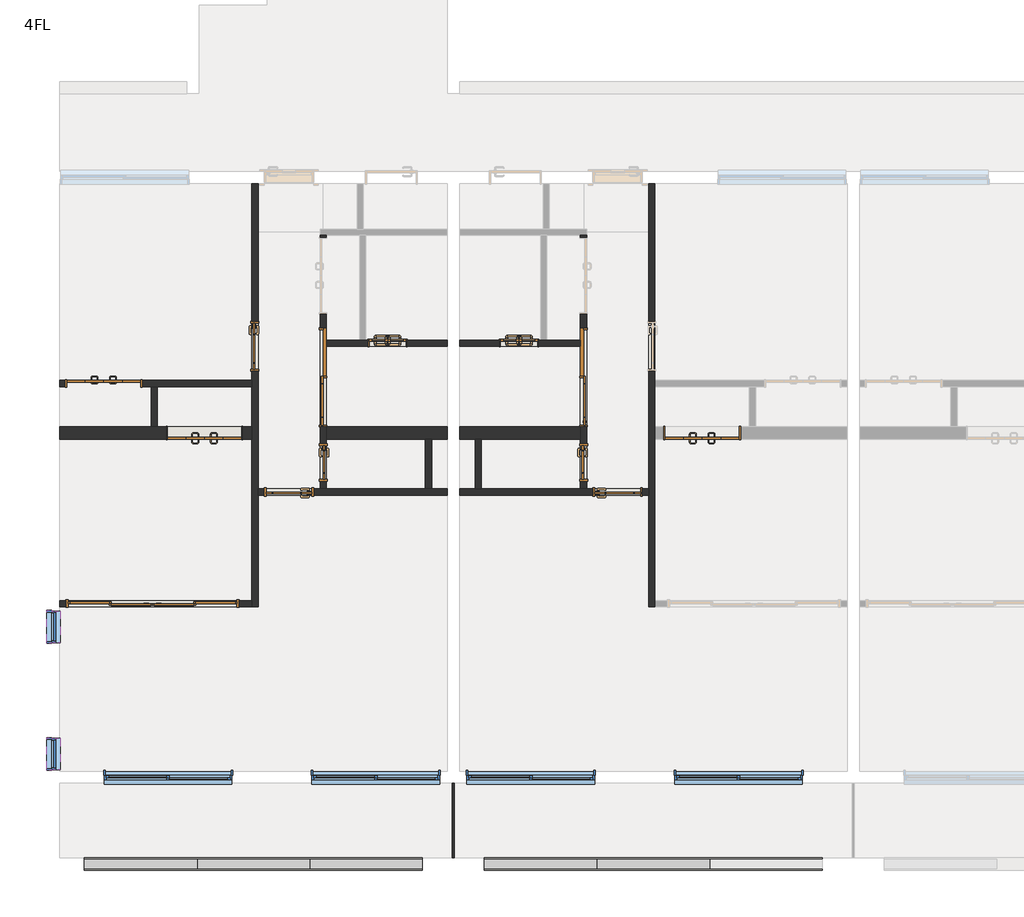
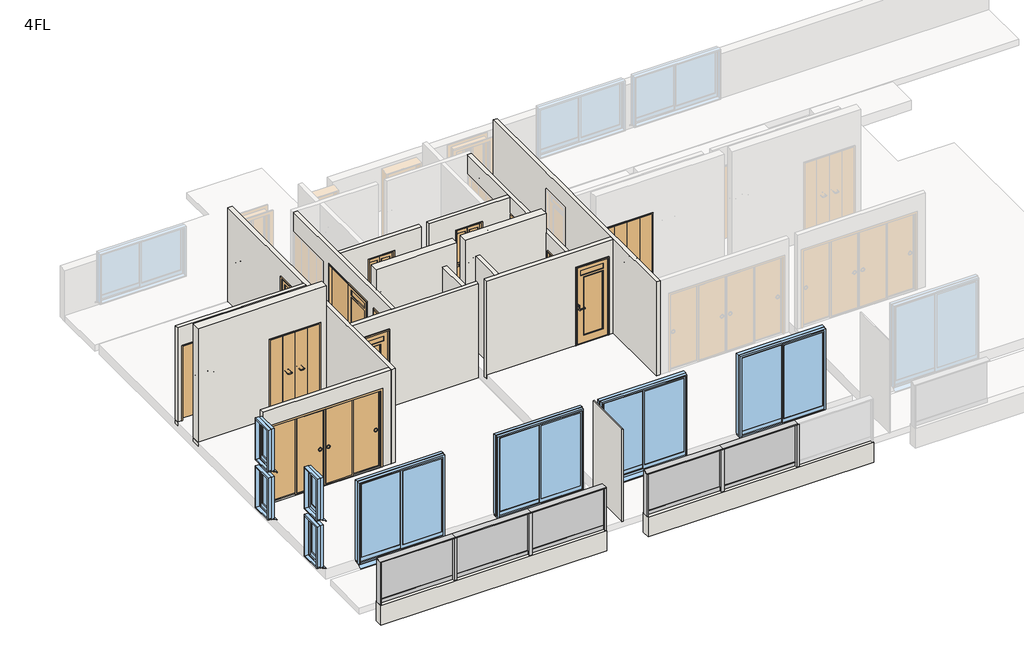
# One storey, part 1 of 3: 19 walls, 13 doors, 12 members, 8 windows, 5 plates.
"""IFC4 building model written with IfcOpenShell, lengths in millimetres."""

from ifc_helpers import new_model, si_unit, frame, origin, place, context, project, spatial, polyline, outline, extrude, faceted_brep, transform, mapped, element, save
from components import door_1200x2000_98cacc9b, door_1200x2000_6a144d60, door_1200x2000_ebe1d490, door_1600x2000_09a7ee27, door_1600x2000_1f5bdc43, door_2800x2000_670b855b, door_600x2000_7f2747f4, door_600x2000_6a266bef, door_600x2000_8ea70a65, door_600x2000_94bb9c3c, door_800x2000_13e9f519, door_800x2000_ccb03061, member_25x150_3f8205e2, member_25x150_e252ec85, member_25x150_8b8be5b9, member_70x150_851c8a9b, plate_5aac5250, plate_977e9fc7, window_2000x2000_f1ff98da, window_450x1000_e0a5e2da, window_450x1000_1cddc73c

model = new_model("IFC4")

# Units and contexts
model_context = context("Model", 3, world=origin())
ifc_project = project(units=[si_unit("LENGTHUNIT", "METRE", prefix="MILLI")], contexts=[model_context])

# Site, building, storey
site = spatial("IfcSite", under=ifc_project)
building = spatial("IfcBuilding", under=site)
storey = spatial("IfcBuildingStorey", under=building, Name="4FL", Elevation=10000.0)

# Doors
placement = place(None, origin())
door_1200x2000_shape = door_1200x2000_98cacc9b(model_context)
element("IfcDoor", 1, ObjectType="木製折戸 : 1200x2000", at=placement, inside=storey, context=model_context, shape_type="MappedRepresentation", body=[
    mapped(door_1200x2000_shape, transform((-8741.2187246, -9820.1171638, 10100.0), x_axis=(-1.0, 0.0, 0.0), y_axis=(0.0, -1.0, 0.0), z_axis=(0.0, 0.0, 1.0))),
])
door_1200x2000_2_shape = door_1200x2000_6a144d60(model_context)
element("IfcDoor", 2, ObjectType="木製折戸 : 1200x2000", at=placement, inside=storey, context=model_context, shape_type="MappedRepresentation", body=[
    mapped(door_1200x2000_2_shape, transform((-10366.2187246, -9020.1171638, 10000.0), x_axis=(1.0, 0.0, 0.0), y_axis=(0.0, 1.0, 0.0), z_axis=(0.0, 0.0, 1.0))),
])
door_1200x2000_3_shape = door_1200x2000_ebe1d490(model_context)
element("IfcDoor", 3, ObjectType="木製折戸 : 1200x2000", at=placement, inside=storey, context=model_context, shape_type="MappedRepresentation", body=[
    mapped(door_1200x2000_3_shape, transform((-716.2187246, -9820.1171638, 10100.0), x_axis=(1.0, 0.0, 0.0), y_axis=(0.0, 1.0, 0.0), z_axis=(0.0, 0.0, 1.0))),
])
door_1600x2000_shape = door_1600x2000_09a7ee27(model_context)
element("IfcDoor", 4, ObjectType="片引戸CL2017 : 1600x2000", at=placement, inside=storey, context=model_context, shape_type="MappedRepresentation", body=[
    mapped(door_1600x2000_shape, transform((-6828.7187246, -8920.1171638, 10100.0), x_axis=(0.0, -1.0, 0.0), y_axis=(1.0, 0.0, 0.0), z_axis=(0.0, 0.0, 1.0))),
])
door_1600x2000_2_shape = door_1600x2000_1f5bdc43(model_context)
element("IfcDoor", 5, ObjectType="片引戸CL2017 : 1600x2000", at=placement, inside=storey, context=model_context, shape_type="MappedRepresentation", body=[
    mapped(door_1600x2000_2_shape, transform((-2628.7187246, -8920.1171638, 10100.0), x_axis=(0.0, -1.0, 0.0), y_axis=(1.0, 0.0, 0.0), z_axis=(0.0, 0.0, 1.0))),
])
door_2800x2000_shape = door_2800x2000_670b855b(model_context)
element("IfcDoor", 6, ObjectType="引違い 4 枚 2 溝_襖 : 2800x2000", at=placement, inside=storey, context=model_context, shape_type="MappedRepresentation", body=[
    mapped(door_2800x2000_shape, transform((-9573.1832207, -12570.1171638, 10100.0), x_axis=(1.0, 0.0, 0.0), y_axis=(0.0, 1.0, 0.0), z_axis=(0.0, 0.0, 1.0))),
])
door_600x2000_shape = door_600x2000_7f2747f4(model_context)
element("IfcDoor", 7, ObjectType="片開き戸CL2058 : 600x2000", at=placement, inside=storey, context=model_context, shape_type="MappedRepresentation", body=[
    mapped(door_600x2000_shape, transform((-6828.7187246, -10295.1171638, 10100.0), x_axis=(0.0, -1.0, 0.0), y_axis=(1.0, 0.0, 0.0), z_axis=(0.0, 0.0, 1.0))),
])
door_600x2000_2_shape = door_600x2000_6a266bef(model_context)
element("IfcDoor", 8, ObjectType="浴室折戸 : 600x2000", at=placement, inside=storey, context=model_context, shape_type="MappedRepresentation", body=[
    mapped(door_600x2000_2_shape, transform((-5788.7187246, -8370.1171638, 10100.0), x_axis=(1.0, 0.0, 0.0), y_axis=(0.0, 1.0, 0.0), z_axis=(0.0, 0.0, 1.0))),
])
door_600x2000_3_shape = door_600x2000_8ea70a65(model_context)
element("IfcDoor", 9, ObjectType="片開き戸CL2058 : 600x2000", at=placement, inside=storey, context=model_context, shape_type="MappedRepresentation", body=[
    mapped(door_600x2000_3_shape, transform((-2628.7187246, -10295.1171638, 10100.0), x_axis=(0.0, -1.0, 0.0), y_axis=(1.0, 0.0, 0.0), z_axis=(0.0, 0.0, 1.0))),
])
door_600x2000_4_shape = door_600x2000_94bb9c3c(model_context)
element("IfcDoor", 10, ObjectType="浴室折戸 : 600x2000", at=placement, inside=storey, context=model_context, shape_type="MappedRepresentation", body=[
    mapped(door_600x2000_4_shape, transform((-3668.7187246, -8370.1171638, 10100.0), x_axis=(-1.0, 0.0, 0.0), y_axis=(0.0, -1.0, 0.0), z_axis=(0.0, 0.0, 1.0))),
])
door_800x2000_shape = door_800x2000_13e9f519(model_context)
element("IfcDoor", 11, ObjectType="片開き戸CL2058 : 800x2000", at=placement, inside=storey, context=model_context, shape_type="MappedRepresentation", body=[
    mapped(door_800x2000_shape, transform((-7928.7187246, -8420.1171638, 10100.0), x_axis=(0.0, -1.0, 0.0), y_axis=(1.0, 0.0, 0.0), z_axis=(0.0, 0.0, 1.0))),
])
element("IfcDoor", 12, ObjectType="片開き戸CL2058 : 800x2000", at=placement, inside=storey, context=model_context, shape_type="MappedRepresentation", body=[
    mapped(door_800x2000_shape, transform((-2078.7187246, -10770.1171638, 10100.0), x_axis=(1.0, 0.0, 0.0), y_axis=(0.0, 1.0, 0.0), z_axis=(0.0, 0.0, 1.0))),
])
door_800x2000_2_shape = door_800x2000_ccb03061(model_context)
element("IfcDoor", 13, ObjectType="片開き戸CL2058 : 800x2000", at=placement, inside=storey, context=model_context, shape_type="MappedRepresentation", body=[
    mapped(door_800x2000_2_shape, transform((-7378.7187246, -10770.1171638, 10100.0), x_axis=(-1.0, 0.0, 0.0), y_axis=(0.0, -1.0, 0.0), z_axis=(0.0, 0.0, 1.0))),
])

# Members
member_25x150_shape = member_25x150_3f8205e2(model_context)
element("IfcMember", 14, ObjectType="長方形のマリオン : 25x150", at=placement, inside=storey, context=model_context, shape_type="MappedRepresentation", body=[
    mapped(member_25x150_shape, transform((-5228.7187246, -16770.1171638, 10000.0), x_axis=(1.0, 0.0, 0.0), y_axis=(0.0, -1.0, 0.0), z_axis=(0.0, 0.0, -1.0))),
])
element("IfcMember", 15, ObjectType="長方形のマリオン : 25x150", at=placement, inside=storey, context=model_context, shape_type="MappedRepresentation", body=[
    mapped(member_25x150_shape, transform((-10678.7187246, -16770.1171638, 11075.0), x_axis=(-1.0, 0.0, 0.0), y_axis=(0.0, -1.0, 0.0), z_axis=(0.0, 0.0, 1.0))),
])
element("IfcMember", 16, ObjectType="長方形のマリオン : 25x150", at=placement, inside=storey, context=model_context, shape_type="MappedRepresentation", body=[
    mapped(member_25x150_shape, transform((-4228.7187246, -16770.1171638, 11075.0), x_axis=(-1.0, 0.0, 0.0), y_axis=(0.0, -1.0, 0.0), z_axis=(0.0, 0.0, 1.0))),
])
member_25x150_2_shape = member_25x150_e252ec85(model_context)
element("IfcMember", 17, ObjectType="長方形のマリオン : 25x150", at=placement, inside=storey, context=model_context, shape_type="MappedRepresentation", body=[
    mapped(member_25x150_2_shape, transform((-5228.7187246, -16770.1171638, 11100.0), x_axis=(0.0, 0.0, 1.0), y_axis=(0.0, -1.0, 0.0), z_axis=(1.0, 0.0, 0.0))),
])
element("IfcMember", 18, ObjectType="長方形のマリオン : 25x150", at=placement, inside=storey, context=model_context, shape_type="MappedRepresentation", body=[
    mapped(member_25x150_2_shape, transform((-8862.0520579, -16770.1171638, 11100.0), x_axis=(0.0, 0.0, 1.0), y_axis=(0.0, -1.0, 0.0), z_axis=(1.0, 0.0, 0.0))),
])
element("IfcMember", 19, ObjectType="長方形のマリオン : 25x150", at=placement, inside=storey, context=model_context, shape_type="MappedRepresentation", body=[
    mapped(member_25x150_2_shape, transform((-2412.0520579, -16770.1171638, 11100.0), x_axis=(0.0, 0.0, 1.0), y_axis=(0.0, -1.0, 0.0), z_axis=(1.0, 0.0, 0.0))),
])
member_25x150_3_shape = member_25x150_8b8be5b9(model_context)
element("IfcMember", 20, ObjectType="長方形のマリオン : 25x150", at=placement, inside=storey, context=model_context, shape_type="MappedRepresentation", body=[
    mapped(member_25x150_3_shape, transform((-7045.3853914, -16770.1171638, 11100.0), x_axis=(0.0, 0.0, 1.0), y_axis=(0.0, -1.0, 0.0), z_axis=(1.0, 0.0, 0.0))),
])
element("IfcMember", 21, ObjectType="長方形のマリオン : 25x150", at=placement, inside=storey, context=model_context, shape_type="MappedRepresentation", body=[
    mapped(member_25x150_3_shape, transform((-595.3853914, -16770.1171638, 11100.0), x_axis=(0.0, 0.0, 1.0), y_axis=(0.0, -1.0, 0.0), z_axis=(1.0, 0.0, 0.0))),
])
member_70x150_shape = member_70x150_851c8a9b(model_context)
element("IfcMember", 22, ObjectType="長方形のマリオン : 70x150", at=placement, inside=storey, context=model_context, shape_type="MappedRepresentation", body=[
    mapped(member_70x150_shape, transform((-8862.0520579, -16770.1171638, 10000.0), x_axis=(1.0, 0.0, 0.0), y_axis=(0.0, -1.0, 0.0), z_axis=(0.0, 0.0, -1.0))),
])
element("IfcMember", 23, ObjectType="長方形のマリオン : 70x150", at=placement, inside=storey, context=model_context, shape_type="MappedRepresentation", body=[
    mapped(member_70x150_shape, transform((-7045.3853914, -16770.1171638, 10000.0), x_axis=(1.0, 0.0, 0.0), y_axis=(0.0, -1.0, 0.0), z_axis=(0.0, 0.0, -1.0))),
])
element("IfcMember", 24, ObjectType="長方形のマリオン : 70x150", at=placement, inside=storey, context=model_context, shape_type="MappedRepresentation", body=[
    mapped(member_70x150_shape, transform((-2412.0520579, -16770.1171638, 10000.0), x_axis=(1.0, 0.0, 0.0), y_axis=(0.0, -1.0, 0.0), z_axis=(0.0, 0.0, -1.0))),
])
element("IfcMember", 25, ObjectType="長方形のマリオン : 70x150", at=placement, inside=storey, context=model_context, shape_type="MappedRepresentation", body=[
    mapped(member_70x150_shape, transform((-595.3853914, -16770.1171638, 10000.0), x_axis=(1.0, 0.0, 0.0), y_axis=(0.0, -1.0, 0.0), z_axis=(0.0, 0.0, -1.0))),
])

# Plates
plate_shape = plate_5aac5250(model_context)
element("IfcPlate", 26, ObjectType="r パネル FIX 下框付 : 框 H100", at=placement, inside=storey, context=model_context, shape_type="MappedRepresentation", body=[
    mapped(plate_shape, transform((-9775.3853913, -16770.1171638, 10000.0), x_axis=(1.0, 0.0, 0.0), y_axis=(0.0, 1.0, 0.0), z_axis=(0.0, 0.0, 1.0))),
])
element("IfcPlate", 27, ObjectType="r パネル FIX 下框付 : 框 H100", at=placement, inside=storey, context=model_context, shape_type="MappedRepresentation", body=[
    mapped(plate_shape, transform((-6132.052058, -16770.1171638, 10000.0), x_axis=(1.0, 0.0, 0.0), y_axis=(0.0, 1.0, 0.0), z_axis=(0.0, 0.0, 1.0))),
])
element("IfcPlate", 28, ObjectType="r パネル FIX 下框付 : 框 H100", at=placement, inside=storey, context=model_context, shape_type="MappedRepresentation", body=[
    mapped(plate_shape, transform((-3325.3853913, -16770.1171638, 10000.0), x_axis=(1.0, 0.0, 0.0), y_axis=(0.0, 1.0, 0.0), z_axis=(0.0, 0.0, 1.0))),
])
plate_2_shape = plate_977e9fc7(model_context)
element("IfcPlate", 29, ObjectType="r パネル FIX 下框付 : 框 H100", at=placement, inside=storey, context=model_context, shape_type="MappedRepresentation", body=[
    mapped(plate_2_shape, transform((-7953.7187246, -16770.1171638, 10000.0), x_axis=(1.0, 0.0, 0.0), y_axis=(0.0, 1.0, 0.0), z_axis=(0.0, 0.0, 1.0))),
])
element("IfcPlate", 30, ObjectType="r パネル FIX 下框付 : 框 H100", at=placement, inside=storey, context=model_context, shape_type="MappedRepresentation", body=[
    mapped(plate_2_shape, transform((-1503.7187246, -16770.1171638, 10000.0), x_axis=(1.0, 0.0, 0.0), y_axis=(0.0, 1.0, 0.0), z_axis=(0.0, 0.0, 1.0))),
])

# Walls
element("IfcWall", 31, ObjectType="(R)RC200", at=placement, inside=storey, context=model_context, shape_type="Brep", body=[
    faceted_brep([(-11078.7187246, -9920.1171638, 10000.0), (-7978.7187246, -9920.1171638, 10000.0), (-7978.7187246, -9920.1171638, 13000.0), (-11078.7187246, -9920.1171638, 13000.0), (-9361.2187246, -9920.1171638, 12120.0), (-8121.2187246, -9920.1171638, 12120.0), (-8121.2187246, -9920.1171638, 10100.0), (-9361.2187246, -9920.1171638, 10100.0), (-11078.7187246, -9720.1171638, 10000.0), (-11078.7187246, -9720.1171638, 13000.0), (-7978.7187246, -9720.1171638, 13000.0), (-7978.7187246, -9720.1171638, 10000.0), (-9503.7187246, -9720.1171638, 10000.0), (-9603.7187246, -9720.1171638, 10000.0), (-9361.2187246, -9720.1171638, 12120.0), (-9361.2187246, -9720.1171638, 10100.0), (-8121.2187246, -9720.1171638, 10100.0), (-8121.2187246, -9720.1171638, 12120.0)], [[[0, 1, 2, 3], [4, 5, 6, 7]], [[8, 9, 10, 11, 12, 13], [14, 15, 16, 17]], [[1, 0, 8, 13, 12, 11]], [[3, 2, 10, 9]], [[2, 1, 11, 10]], [[15, 14, 4, 7]], [[16, 15, 7, 6]], [[17, 16, 6, 5]], [[14, 17, 5, 4]], [[0, 3, 9, 8]]]),
])
element("IfcWall", 32, ObjectType="(R)RC200", at=placement, inside=storey, context=model_context, shape_type="Brep", body=[
    faceted_brep([(-6778.7187246, -9920.1171638, 10000.0), (-5178.7187246, -9920.1171638, 10000.0), (-5078.7187246, -9920.1171638, 10000.0), (-4828.7187246, -9920.1171638, 10000.0), (-4828.7187246, -9920.1171638, 13000.0), (-6778.7187246, -9920.1171638, 13000.0), (-6778.7187246, -9720.1171638, 10000.0), (-6778.7187246, -9720.1171638, 10100.0), (-6778.7187246, -9720.1171638, 12100.0), (-6778.7187246, -9720.1171638, 13000.0), (-4828.7187246, -9720.1171638, 13000.0), (-4828.7187246, -9720.1171638, 10000.0)], [[[0, 1, 2, 3, 4, 5]], [[6, 7, 8, 9, 10, 11]], [[3, 2, 1, 0, 6, 11]], [[5, 4, 10, 9]], [[0, 5, 9, 8, 7, 6]], [[4, 3, 11, 10]]]),
])
element("IfcWall", 33, ObjectType="(R)RC200", at=placement, inside=storey, context=model_context, shape_type="Brep", body=[
    faceted_brep([(-2678.7187246, -9720.1171638, 10000.0), (-4628.7187246, -9720.1171638, 10000.0), (-4628.7187246, -9720.1171638, 13000.0), (-2678.7187246, -9720.1171638, 13000.0), (-2678.7187246, -9720.1171638, 12100.0), (-2678.7187246, -9720.1171638, 10100.0), (-2678.7187246, -9920.1171638, 10000.0), (-2678.7187246, -9920.1171638, 13000.0), (-4628.7187246, -9920.1171638, 13000.0), (-4628.7187246, -9920.1171638, 10000.0), (-4378.7187246, -9920.1171638, 10000.0), (-4278.7187246, -9920.1171638, 10000.0)], [[[0, 1, 2, 3, 4, 5]], [[6, 7, 8, 9, 10, 11]], [[1, 0, 6, 11, 10, 9]], [[3, 2, 8, 7]], [[0, 5, 4, 3, 7, 6]], [[2, 1, 9, 8]]]),
])
element("IfcWall", 34, ObjectType="(R)RC200", at=placement, inside=storey, context=model_context, shape_type="SweptSolid", body=[
    extrude(outline(polyline([(-5228.7187246, -16870.1171638), (-10678.7187246, -16870.1171638), (-10678.7187246, -16670.1171638), (-5228.7187246, -16670.1171638), (-5228.7187246, -16870.1171638)])), frame((0.0, 0.0, 9500.0), z_axis=(0.0, 0.0, 1.0), x_axis=(1.0, 0.0, 0.0)), (0.0, 0.0, 1.0), 500.0),
])
element("IfcWall", 35, ObjectType="(R)RC200", at=placement, inside=storey, context=model_context, shape_type="SweptSolid", body=[
    extrude(outline(polyline([(1221.2812754, -16870.1171638), (-4228.7187246, -16870.1171638), (-4228.7187246, -16670.1171638), (1221.2812754, -16670.1171638), (1221.2812754, -16870.1171638)])), frame((0.0, 0.0, 9500.0), z_axis=(0.0, 0.0, 1.0), x_axis=(1.0, 0.0, 0.0)), (0.0, 0.0, 1.0), 500.0),
])
element("IfcWall", 36, ObjectType="(F)30", at=placement, inside=storey, context=model_context, shape_type="SweptSolid", body=[
    extrude(outline(polyline([(-4743.7187246, -16670.1171638), (-4743.7187246, -15470.1171638), (-4713.7187246, -15470.1171638), (-4713.7187246, -16670.1171638), (-4743.7187246, -16670.1171638)])), frame((0.0, 0.0, 9950.0), z_axis=(0.0, 0.0, 1.0), x_axis=(1.0, 0.0, 0.0)), (0.0, 0.0, 1.0), 2350.0),
])
element("IfcWall", 37, ObjectType="(L1)LGS100", at=placement, inside=storey, context=model_context, shape_type="Brep", body=[
    faceted_brep([(-7878.7187246, -12620.1171638, 10000.0), (-7878.7187246, -10820.1171638, 10000.0), (-7878.7187246, -10720.1171638, 10000.0), (-7878.7187246, -5800.1171638, 10000.0), (-7878.7187246, -5800.1171638, 12500.0), (-7878.7187246, -10720.1171638, 12500.0), (-7878.7187246, -10820.1171638, 12500.0), (-7878.7187246, -12620.1171638, 12500.0), (-7878.7187246, -8820.1171638, 10100.0), (-7878.7187246, -8820.1171638, 12100.0), (-7878.7187246, -8020.1171638, 12100.0), (-7878.7187246, -8020.1171638, 10100.0), (-7978.7187246, -12620.1171638, 10000.0), (-7978.7187246, -12620.1171638, 12500.0), (-7978.7187246, -12520.1171638, 12500.0), (-7978.7187246, -9070.1171638, 12500.0), (-7978.7187246, -8970.1171638, 12500.0), (-7978.7187246, -5800.1171638, 12500.0), (-7978.7187246, -5800.1171638, 10000.0), (-7978.7187246, -8970.1171638, 10000.0), (-7978.7187246, -9070.1171638, 10000.0), (-7978.7187246, -9720.1171638, 10000.0), (-7978.7187246, -9920.1171638, 10000.0), (-7978.7187246, -12520.1171638, 10000.0), (-7978.7187246, -8820.1171638, 10100.0), (-7978.7187246, -8020.1171638, 10100.0), (-7978.7187246, -8020.1171638, 12100.0), (-7978.7187246, -8820.1171638, 12100.0)], [[[0, 1, 2, 3, 4, 5, 6, 7], [8, 9, 10, 11]], [[12, 13, 14, 15, 16, 17, 18, 19, 20, 21, 22, 23], [24, 25, 26, 27]], [[3, 2, 1, 0, 12, 23, 22, 21, 20, 19, 18]], [[7, 6, 5, 4, 17, 16, 15, 14, 13]], [[0, 7, 13, 12]], [[9, 8, 24, 27]], [[10, 9, 27, 26]], [[11, 10, 26, 25]], [[8, 11, 25, 24]], [[4, 3, 18, 17]]]),
])
element("IfcWall", 38, ObjectType="(L1)LGS100", at=placement, inside=storey, context=model_context, shape_type="Brep", body=[
    faceted_brep([(-6778.7187246, -6630.1171638, 12500.0), (-6778.7187246, -8320.1171638, 12500.0), (-6778.7187246, -8420.1171638, 12500.0), (-6778.7187246, -10720.1171638, 12500.0), (-6778.7187246, -10720.1171638, 10000.0), (-6778.7187246, -9920.1171638, 10000.0), (-6778.7187246, -9720.1171638, 10000.0), (-6778.7187246, -8420.1171638, 10000.0), (-6778.7187246, -8320.1171638, 10000.0), (-6778.7187246, -7900.1171638, 10000.0), (-6778.7187246, -7900.1171638, 12020.0), (-6778.7187246, -6660.1171638, 12020.0), (-6778.7187246, -6660.1171638, 10000.0), (-6778.7187246, -6630.1171638, 10000.0), (-6778.7187246, -10595.1171638, 10100.0), (-6778.7187246, -10595.1171638, 12100.0), (-6778.7187246, -9995.1171638, 12100.0), (-6778.7187246, -9995.1171638, 10100.0), (-6778.7187246, -9720.1171638, 10100.0), (-6778.7187246, -9720.1171638, 12100.0), (-6778.7187246, -8120.1171638, 12100.0), (-6778.7187246, -8120.1171638, 10100.0), (-6878.7187246, -10720.1171638, 12500.0), (-6878.7187246, -6630.1171638, 12500.0), (-6878.7187246, -6630.1171638, 10000.0), (-6878.7187246, -6660.1171638, 10000.0), (-6878.7187246, -6660.1171638, 12020.0), (-6878.7187246, -7900.1171638, 12020.0), (-6878.7187246, -7900.1171638, 10000.0), (-6878.7187246, -10720.1171638, 10000.0), (-6878.7187246, -10595.1171638, 10100.0), (-6878.7187246, -9995.1171638, 10100.0), (-6878.7187246, -9995.1171638, 12100.0), (-6878.7187246, -10595.1171638, 12100.0), (-6878.7187246, -9720.1171638, 12100.0), (-6878.7187246, -9720.1171638, 10100.0), (-6878.7187246, -8120.1171638, 10100.0), (-6878.7187246, -8120.1171638, 12100.0)], [[[0, 1, 2, 3, 4, 5, 6, 7, 8, 9, 10, 11, 12, 13], [14, 15, 16, 17], [18, 19, 20, 21]], [[22, 23, 24, 25, 26, 27, 28, 29], [30, 31, 32, 33], [34, 35, 36, 37]], [[4, 29, 28, 9, 8, 7, 6, 5]], [[24, 13, 12, 25]], [[3, 2, 1, 0, 23, 22]], [[4, 3, 22, 29]], [[0, 13, 24, 23]], [[15, 14, 30, 33]], [[16, 15, 33, 32]], [[17, 16, 32, 31]], [[14, 17, 31, 30]], [[18, 35, 34, 19]], [[19, 34, 37, 20]], [[20, 37, 36, 21]], [[35, 18, 21, 36]], [[12, 11, 26, 25]], [[10, 9, 28, 27]], [[11, 10, 27, 26]]]),
])
element("IfcWall", 39, ObjectType="(L1)LGS100", at=placement, inside=storey, context=model_context, shape_type="Brep", body=[
    faceted_brep([(-6778.7187246, -8420.1171638, 10000.0), (-4828.7187246, -8420.1171638, 10000.0), (-4828.7187246, -8420.1171638, 12500.0), (-6778.7187246, -8420.1171638, 12500.0), (-5468.7187246, -8420.1171638, 12120.0), (-5468.7187246, -8420.1171638, 10100.0), (-6108.7187246, -8420.1171638, 10100.0), (-6108.7187246, -8420.1171638, 12120.0), (-6778.7187246, -8320.1171638, 10000.0), (-6778.7187246, -8320.1171638, 12500.0), (-6238.7187246, -8320.1171638, 12500.0), (-6138.7187246, -8320.1171638, 12500.0), (-4828.7187246, -8320.1171638, 12500.0), (-4828.7187246, -8320.1171638, 10000.0), (-6138.7187246, -8320.1171638, 10000.0), (-6238.7187246, -8320.1171638, 10000.0), (-5468.7187246, -8320.1171638, 12120.0), (-6108.7187246, -8320.1171638, 12120.0), (-6108.7187246, -8320.1171638, 10100.0), (-5468.7187246, -8320.1171638, 10100.0)], [[[0, 1, 2, 3], [4, 5, 6, 7]], [[8, 9, 10, 11, 12, 13, 14, 15], [16, 17, 18, 19]], [[1, 0, 8, 15, 14, 13]], [[3, 2, 12, 11, 10, 9]], [[0, 3, 9, 8]], [[5, 4, 16, 19]], [[6, 5, 19, 18]], [[7, 6, 18, 17]], [[4, 7, 17, 16]], [[2, 1, 13, 12]]]),
])
element("IfcWall", 40, ObjectType="(L1)LGS100", at=placement, inside=storey, context=model_context, shape_type="Brep", body=[
    faceted_brep([(-7878.7187246, -10820.1171638, 10000.0), (-4828.7187246, -10820.1171638, 10000.0), (-4828.7187246, -10820.1171638, 12500.0), (-7878.7187246, -10820.1171638, 12500.0), (-7778.7187246, -10820.1171638, 10100.0), (-7778.7187246, -10820.1171638, 12100.0), (-6978.7187246, -10820.1171638, 12100.0), (-6978.7187246, -10820.1171638, 10100.0), (-7878.7187246, -10720.1171638, 10000.0), (-7878.7187246, -10720.1171638, 12500.0), (-6878.7187246, -10720.1171638, 12500.0), (-6778.7187246, -10720.1171638, 12500.0), (-5178.7187246, -10720.1171638, 12500.0), (-5078.7187246, -10720.1171638, 12500.0), (-4828.7187246, -10720.1171638, 12500.0), (-4828.7187246, -10720.1171638, 10000.0), (-5078.7187246, -10720.1171638, 10000.0), (-5178.7187246, -10720.1171638, 10000.0), (-6778.7187246, -10720.1171638, 10000.0), (-6878.7187246, -10720.1171638, 10000.0), (-7778.7187246, -10720.1171638, 10100.0), (-6978.7187246, -10720.1171638, 10100.0), (-6978.7187246, -10720.1171638, 12100.0), (-7778.7187246, -10720.1171638, 12100.0)], [[[0, 1, 2, 3], [4, 5, 6, 7]], [[8, 9, 10, 11, 12, 13, 14, 15, 16, 17, 18, 19], [20, 21, 22, 23]], [[1, 0, 8, 19, 18, 17, 16, 15]], [[3, 2, 14, 13, 12, 11, 10, 9]], [[0, 3, 9, 8]], [[5, 4, 20, 23]], [[6, 5, 23, 22]], [[7, 6, 22, 21]], [[4, 7, 21, 20]], [[2, 1, 15, 14]]]),
])
element("IfcWall", 41, ObjectType="(L1)LGS100", at=placement, inside=storey, context=model_context, shape_type="SweptSolid", body=[
    extrude(outline(polyline([(-5078.7187246, -9920.1171638), (-5078.7187246, -10720.1171638), (-5178.7187246, -10720.1171638), (-5178.7187246, -9920.1171638), (-5078.7187246, -9920.1171638)])), frame((0.0, 0.0, 10000.0), z_axis=(0.0, 0.0, 1.0), x_axis=(1.0, 0.0, 0.0)), (0.0, 0.0, 1.0), 2500.0),
])
element("IfcWall", 42, ObjectType="(L1)LGS100", at=placement, inside=storey, context=model_context, shape_type="Brep", body=[
    faceted_brep([(-11078.7187246, -9070.1171638, 10000.0), (-10986.2187246, -9070.1171638, 10000.0), (-10986.2187246, -9070.1171638, 12020.0), (-9746.2187246, -9070.1171638, 12020.0), (-9746.2187246, -9070.1171638, 10000.0), (-9603.7187246, -9070.1171638, 10000.0), (-9503.7187246, -9070.1171638, 10000.0), (-7978.7187246, -9070.1171638, 10000.0), (-7978.7187246, -9070.1171638, 12500.0), (-9503.7187246, -9070.1171638, 12500.0), (-9603.7187246, -9070.1171638, 12500.0), (-11078.7187246, -9070.1171638, 12500.0), (-10986.2187246, -8970.1171638, 12020.0), (-10986.2187246, -8970.1171638, 10000.0), (-11078.7187246, -8970.1171638, 10000.0), (-11078.7187246, -8970.1171638, 12500.0), (-7978.7187246, -8970.1171638, 12500.0), (-7978.7187246, -8970.1171638, 10000.0), (-9746.2187246, -8970.1171638, 10000.0), (-9746.2187246, -8970.1171638, 12020.0)], [[[0, 1, 2, 3, 4, 5, 6, 7, 8, 9, 10, 11]], [[12, 13, 14, 15, 16, 17, 18, 19]], [[18, 17, 7, 6, 5, 4]], [[14, 13, 1, 0]], [[11, 10, 9, 8, 16, 15]], [[8, 7, 17, 16]], [[4, 3, 19, 18]], [[2, 1, 13, 12]], [[3, 2, 12, 19]], [[0, 11, 15, 14]]]),
])
element("IfcWall", 43, ObjectType="(L1)LGS100", at=placement, inside=storey, context=model_context, shape_type="SweptSolid", body=[
    extrude(outline(polyline([(-9503.7187246, -9070.1171638), (-9503.7187246, -9720.1171638), (-9603.7187246, -9720.1171638), (-9603.7187246, -9070.1171638), (-9503.7187246, -9070.1171638)])), frame((0.0, 0.0, 10000.0), z_axis=(0.0, 0.0, 1.0), x_axis=(1.0, 0.0, 0.0)), (0.0, 0.0, 1.0), 2500.0),
])
element("IfcWall", 44, ObjectType="(L1)LGS100", at=placement, inside=storey, context=model_context, shape_type="SweptSolid", body=[
    extrude(outline(polyline([(10000.0, -11078.7187246), (10000.0, -7978.7187246), (12500.0, -7978.7187246), (12500.0, -11078.7187246), (10000.0, -11078.7187246)]), holes=[polyline([(12100.0, -8178.7187246), (10100.0, -8178.7187246), (10100.0, -10978.7187246), (12100.0, -10978.7187246), (12100.0, -8178.7187246)])]), frame((0.0, -12620.1171638, 0.0), z_axis=(0.0, 1.0, 0.0), x_axis=(0.0, 0.0, 1.0)), (0.0, 0.0, 1.0), 100.0),
])
element("IfcWall", 45, ObjectType="(L1)LGS100", at=placement, inside=storey, context=model_context, shape_type="Brep", body=[
    faceted_brep([(-1478.7187246, -12620.1171638, 10000.0), (-1478.7187246, -12520.1171638, 10000.0), (-1478.7187246, -9920.1171638, 10000.0), (-1478.7187246, -9720.1171638, 10000.0), (-1478.7187246, -9070.1171638, 10000.0), (-1478.7187246, -8970.1171638, 10000.0), (-1478.7187246, -5800.1171638, 10000.0), (-1478.7187246, -5800.1171638, 12500.0), (-1478.7187246, -8970.1171638, 12500.0), (-1478.7187246, -9070.1171638, 12500.0), (-1478.7187246, -12520.1171638, 12500.0), (-1478.7187246, -12620.1171638, 12500.0), (-1478.7187246, -8820.1171638, 10100.0), (-1478.7187246, -8820.1171638, 12100.0), (-1478.7187246, -8020.1171638, 12100.0), (-1478.7187246, -8020.1171638, 10100.0), (-1578.7187246, -12620.1171638, 10000.0), (-1578.7187246, -12620.1171638, 12500.0), (-1578.7187246, -10820.1171638, 12500.0), (-1578.7187246, -10720.1171638, 12500.0), (-1578.7187246, -5800.1171638, 12500.0), (-1578.7187246, -5800.1171638, 10000.0), (-1578.7187246, -10720.1171638, 10000.0), (-1578.7187246, -10820.1171638, 10000.0), (-1578.7187246, -8820.1171638, 10100.0), (-1578.7187246, -8020.1171638, 10100.0), (-1578.7187246, -8020.1171638, 12100.0), (-1578.7187246, -8820.1171638, 12100.0)], [[[0, 1, 2, 3, 4, 5, 6, 7, 8, 9, 10, 11], [12, 13, 14, 15]], [[16, 17, 18, 19, 20, 21, 22, 23], [24, 25, 26, 27]], [[6, 5, 4, 3, 2, 1, 0, 16, 23, 22, 21]], [[11, 10, 9, 8, 7, 20, 19, 18, 17]], [[13, 12, 24, 27]], [[14, 13, 27, 26]], [[15, 14, 26, 25]], [[12, 15, 25, 24]], [[0, 11, 17, 16]], [[7, 6, 21, 20]]]),
])
element("IfcWall", 46, ObjectType="(L1)LGS100", at=placement, inside=storey, context=model_context, shape_type="Brep", body=[
    faceted_brep([(-2578.7187246, -6630.1171638, 12500.0), (-2578.7187246, -10720.1171638, 12500.0), (-2578.7187246, -10720.1171638, 10000.0), (-2578.7187246, -7900.1171638, 10000.0), (-2578.7187246, -7900.1171638, 12020.0), (-2578.7187246, -6660.1171638, 12020.0), (-2578.7187246, -6660.1171638, 10000.0), (-2578.7187246, -6630.1171638, 10000.0), (-2578.7187246, -10595.1171638, 10100.0), (-2578.7187246, -10595.1171638, 12100.0), (-2578.7187246, -9995.1171638, 12100.0), (-2578.7187246, -9995.1171638, 10100.0), (-2578.7187246, -9720.1171638, 10100.0), (-2578.7187246, -9720.1171638, 12100.0), (-2578.7187246, -8120.1171638, 12100.0), (-2578.7187246, -8120.1171638, 10100.0), (-2678.7187246, -10720.1171638, 12500.0), (-2678.7187246, -8420.1171638, 12500.0), (-2678.7187246, -8320.1171638, 12500.0), (-2678.7187246, -6630.1171638, 12500.0), (-2678.7187246, -6630.1171638, 10000.0), (-2678.7187246, -6660.1171638, 10000.0), (-2678.7187246, -6660.1171638, 12020.0), (-2678.7187246, -7900.1171638, 12020.0), (-2678.7187246, -7900.1171638, 10000.0), (-2678.7187246, -8320.1171638, 10000.0), (-2678.7187246, -8420.1171638, 10000.0), (-2678.7187246, -9720.1171638, 10000.0), (-2678.7187246, -9920.1171638, 10000.0), (-2678.7187246, -10720.1171638, 10000.0), (-2678.7187246, -10595.1171638, 10100.0), (-2678.7187246, -9995.1171638, 10100.0), (-2678.7187246, -9995.1171638, 12100.0), (-2678.7187246, -10595.1171638, 12100.0), (-2678.7187246, -9720.1171638, 12100.0), (-2678.7187246, -9720.1171638, 10100.0), (-2678.7187246, -8120.1171638, 10100.0), (-2678.7187246, -8120.1171638, 12100.0)], [[[0, 1, 2, 3, 4, 5, 6, 7], [8, 9, 10, 11], [12, 13, 14, 15]], [[16, 17, 18, 19, 20, 21, 22, 23, 24, 25, 26, 27, 28, 29], [30, 31, 32, 33], [34, 35, 36, 37]], [[6, 21, 20, 7]], [[24, 3, 2, 29, 28, 27, 26, 25]], [[1, 0, 19, 18, 17, 16]], [[9, 8, 30, 33]], [[10, 9, 33, 32]], [[11, 10, 32, 31]], [[8, 11, 31, 30]], [[12, 35, 34, 13]], [[13, 34, 37, 14]], [[14, 37, 36, 15]], [[35, 12, 15, 36]], [[6, 5, 22, 21]], [[4, 3, 24, 23]], [[5, 4, 23, 22]], [[2, 1, 16, 29]], [[0, 7, 20, 19]]]),
])
element("IfcWall", 47, ObjectType="(L1)LGS100", at=placement, inside=storey, context=model_context, shape_type="Brep", body=[
    faceted_brep([(-2678.7187246, -8320.1171638, 10000.0), (-3218.7187246, -8320.1171638, 10000.0), (-3318.7187246, -8320.1171638, 10000.0), (-4628.7187246, -8320.1171638, 10000.0), (-4628.7187246, -8320.1171638, 12500.0), (-3318.7187246, -8320.1171638, 12500.0), (-3218.7187246, -8320.1171638, 12500.0), (-2678.7187246, -8320.1171638, 12500.0), (-3988.7187246, -8320.1171638, 12120.0), (-3988.7187246, -8320.1171638, 10100.0), (-3348.7187246, -8320.1171638, 10100.0), (-3348.7187246, -8320.1171638, 12120.0), (-2678.7187246, -8420.1171638, 10000.0), (-2678.7187246, -8420.1171638, 12500.0), (-4628.7187246, -8420.1171638, 12500.0), (-4628.7187246, -8420.1171638, 10000.0), (-3988.7187246, -8420.1171638, 12120.0), (-3348.7187246, -8420.1171638, 12120.0), (-3348.7187246, -8420.1171638, 10100.0), (-3988.7187246, -8420.1171638, 10100.0)], [[[0, 1, 2, 3, 4, 5, 6, 7], [8, 9, 10, 11]], [[12, 13, 14, 15], [16, 17, 18, 19]], [[3, 2, 1, 0, 12, 15]], [[7, 6, 5, 4, 14, 13]], [[9, 8, 16, 19]], [[10, 9, 19, 18]], [[11, 10, 18, 17]], [[8, 11, 17, 16]], [[0, 7, 13, 12]], [[4, 3, 15, 14]]]),
])
element("IfcWall", 48, ObjectType="(L1)LGS100", at=placement, inside=storey, context=model_context, shape_type="Brep", body=[
    faceted_brep([(-1578.7187246, -10720.1171638, 10000.0), (-2578.7187246, -10720.1171638, 10000.0), (-2678.7187246, -10720.1171638, 10000.0), (-4278.7187246, -10720.1171638, 10000.0), (-4378.7187246, -10720.1171638, 10000.0), (-4628.7187246, -10720.1171638, 10000.0), (-4628.7187246, -10720.1171638, 12500.0), (-4378.7187246, -10720.1171638, 12500.0), (-4278.7187246, -10720.1171638, 12500.0), (-2678.7187246, -10720.1171638, 12500.0), (-2578.7187246, -10720.1171638, 12500.0), (-1578.7187246, -10720.1171638, 12500.0), (-1678.7187246, -10720.1171638, 10100.0), (-1678.7187246, -10720.1171638, 12100.0), (-2478.7187246, -10720.1171638, 12100.0), (-2478.7187246, -10720.1171638, 10100.0), (-1578.7187246, -10820.1171638, 10000.0), (-1578.7187246, -10820.1171638, 12500.0), (-4628.7187246, -10820.1171638, 12500.0), (-4628.7187246, -10820.1171638, 10000.0), (-1678.7187246, -10820.1171638, 10100.0), (-2478.7187246, -10820.1171638, 10100.0), (-2478.7187246, -10820.1171638, 12100.0), (-1678.7187246, -10820.1171638, 12100.0)], [[[0, 1, 2, 3, 4, 5, 6, 7, 8, 9, 10, 11], [12, 13, 14, 15]], [[16, 17, 18, 19], [20, 21, 22, 23]], [[5, 4, 3, 2, 1, 0, 16, 19]], [[11, 10, 9, 8, 7, 6, 18, 17]], [[13, 12, 20, 23]], [[14, 13, 23, 22]], [[15, 14, 22, 21]], [[12, 15, 21, 20]], [[0, 11, 17, 16]], [[6, 5, 19, 18]]]),
])
element("IfcWall", 49, ObjectType="(L1)LGS100", at=placement, inside=storey, context=model_context, shape_type="SweptSolid", body=[
    extrude(outline(polyline([(-4278.7187246, -9920.1171638), (-4278.7187246, -10720.1171638), (-4378.7187246, -10720.1171638), (-4378.7187246, -9920.1171638), (-4278.7187246, -9920.1171638)])), frame((0.0, 0.0, 10000.0), z_axis=(0.0, 0.0, 1.0), x_axis=(1.0, 0.0, 0.0)), (0.0, 0.0, 1.0), 2500.0),
])

# Windows
window_2000x2000_shape = window_2000x2000_f1ff98da(model_context)
element("IfcWindow", 50, ObjectType="鋼製_一般枠_引違い-二枚 : 2000x2000", at=placement, inside=storey, context=model_context, shape_type="MappedRepresentation", body=[
    mapped(window_2000x2000_shape, transform((-9328.7187246, -15370.1171638, 9200.0), x_axis=(-1.0, 0.0, 0.0), y_axis=(0.0, -1.0, 0.0), z_axis=(0.0, 0.0, 1.0))),
])
element("IfcWindow", 51, ObjectType="鋼製_一般枠_引違い-二枚 : 2000x2000", at=placement, inside=storey, context=model_context, shape_type="MappedRepresentation", body=[
    mapped(window_2000x2000_shape, transform((-5978.7187246, -15370.1171638, 9200.0), x_axis=(-1.0, 0.0, 0.0), y_axis=(0.0, -1.0, 0.0), z_axis=(0.0, 0.0, 1.0))),
])
element("IfcWindow", 52, ObjectType="鋼製_一般枠_引違い-二枚 : 2000x2000", at=placement, inside=storey, context=model_context, shape_type="MappedRepresentation", body=[
    mapped(window_2000x2000_shape, transform((-128.7187246, -15370.1171638, 9200.0), x_axis=(-1.0, 0.0, 0.0), y_axis=(0.0, -1.0, 0.0), z_axis=(0.0, 0.0, 1.0))),
])
element("IfcWindow", 53, ObjectType="鋼製_一般枠_引違い-二枚 : 2000x2000", at=placement, inside=storey, context=model_context, shape_type="MappedRepresentation", body=[
    mapped(window_2000x2000_shape, transform((-3478.7187246, -15370.1171638, 9200.0), x_axis=(-1.0, 0.0, 0.0), y_axis=(0.0, -1.0, 0.0), z_axis=(0.0, 0.0, 1.0))),
])
window_450x1000_shape = window_450x1000_e0a5e2da(model_context)
element("IfcWindow", 54, ObjectType="鋼製_一般枠_嵌殺し : 450x1000", at=placement, inside=storey, context=model_context, shape_type="MappedRepresentation", body=[
    mapped(window_450x1000_shape, transform((-11178.7187246, -14995.1171638, 9010.0), x_axis=(0.0, -1.0, 0.0), y_axis=(1.0, 0.0, 0.0), z_axis=(0.0, 0.0, 1.0))),
])
element("IfcWindow", 55, ObjectType="鋼製_一般枠_嵌殺し : 450x1000", at=placement, inside=storey, context=model_context, shape_type="MappedRepresentation", body=[
    mapped(window_450x1000_shape, transform((-11178.7187246, -12945.1171638, 9010.0), x_axis=(0.0, -1.0, 0.0), y_axis=(1.0, 0.0, 0.0), z_axis=(0.0, 0.0, 1.0))),
])
window_450x1000_2_shape = window_450x1000_1cddc73c(model_context)
element("IfcWindow", 56, ObjectType="鋼製_一般枠_嵌殺し : 450x1000", at=placement, inside=storey, context=model_context, shape_type="MappedRepresentation", body=[
    mapped(window_450x1000_2_shape, transform((-11178.7187246, -14995.1171638, 10230.0), x_axis=(0.0, 1.0, 0.0), y_axis=(-1.0, 0.0, 0.0), z_axis=(0.0, 0.0, 1.0))),
])
element("IfcWindow", 57, ObjectType="鋼製_一般枠_嵌殺し : 450x1000", at=placement, inside=storey, context=model_context, shape_type="MappedRepresentation", body=[
    mapped(window_450x1000_2_shape, transform((-11178.7187246, -12945.1171638, 10230.0), x_axis=(0.0, 1.0, 0.0), y_axis=(-1.0, 0.0, 0.0), z_axis=(0.0, 0.0, 1.0))),
])

save(model, "model.ifc")
